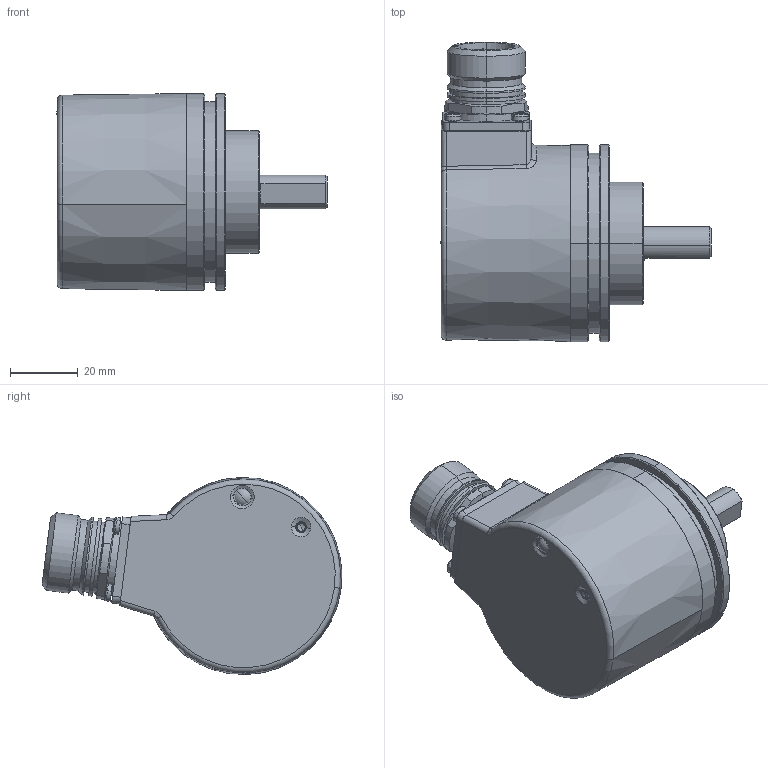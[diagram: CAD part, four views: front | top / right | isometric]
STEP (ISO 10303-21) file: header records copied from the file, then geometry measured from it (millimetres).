
FILE_DESCRIPTION (( 'STEP AP214' ), '1' );
FILE_NAME ('5863.12X4.XXXX.STEP', '2010-11-22T08:46:28', ( 'admin' ), ( 'Fritz Kübler GmbH' ), 'SwSTEP 2.0', 'SolidWorks 2009', '' );
FILE_SCHEMA (( 'AUTOMOTIVE_DESIGN' ));
Length unit declared in the file: millimetre
Products named in the file (1): 5863.12X4.XXXX
Bounding box: 79.6 x 88.29 x 58 mm (x, y, z)
Surface area: 24577.8 mm2 (no closed solid volume)
Topology: 0 solids, 34 shells, 338 faces, 882 edges, 563 vertices
Faces by surface type: cylinder 135, plane 92, cone 45, sphere 36, torus 24, bspline 6
Entity records: 15239 total; most frequent: CARTESIAN_POINT 3003, DIRECTION 2022, ORIENTED_EDGE 1542, AXIS2_PLACEMENT_3D 859, EDGE_CURVE 858, VERTEX_POINT 563, CIRCLE 526, EDGE_LOOP 391
